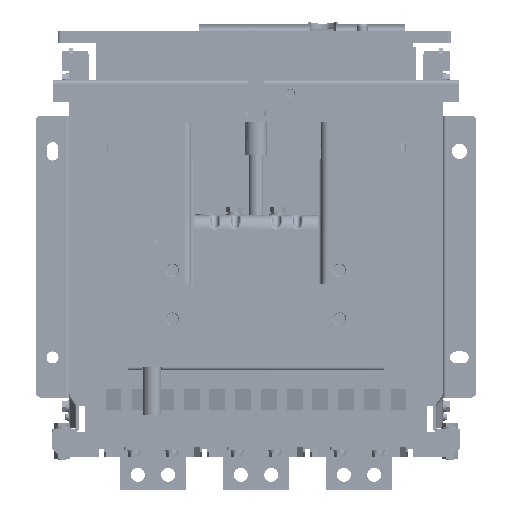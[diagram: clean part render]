
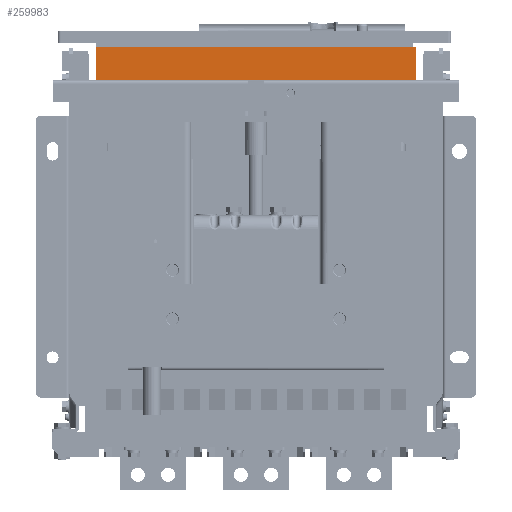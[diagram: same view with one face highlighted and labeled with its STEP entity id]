
A CAD part, front view. The second image highlights one B-rep face of the part: STEP entity #259983.
In plain terms, the highlighted planar face has unit normal (0, -1, 0) as drawn and (1, 0, 0) by its records, which use the part's own axes.
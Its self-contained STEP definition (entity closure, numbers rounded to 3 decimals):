
#30565 = DIRECTION ( 'NONE',  ( 1., 0., 0. ) ) ;
#40032 = DIRECTION ( 'NONE',  ( 0., 0., 1. ) ) ;
#43785 = LINE ( 'NONE', #157681, #97458 ) ;
#47872 = DIRECTION ( 'NONE',  ( 0., 1., 0. ) ) ;
#57873 = VECTOR ( 'NONE', #47872, 1000. ) ;
#70995 = EDGE_CURVE ( 'NONE', #103480, #221803, #43785, .T. ) ;
#91649 = EDGE_LOOP ( 'NONE', ( #244234, #256107, #321685, #157575 ) ) ;
#97458 = VECTOR ( 'NONE', #40032, 1000. ) ;
#103480 = VERTEX_POINT ( 'NONE', #150611 ) ;
#116974 = VERTEX_POINT ( 'NONE', #293547 ) ;
#123531 = VERTEX_POINT ( 'NONE', #251832 ) ;
#133398 = EDGE_CURVE ( 'NONE', #103480, #116974, #221075, .T. ) ;
#150611 = CARTESIAN_POINT ( 'NONE',  ( 401.258, -283.564, -40.5 ) ) ;
#157575 = ORIENTED_EDGE ( 'NONE', *, *, #237006, .F. ) ;
#157681 = CARTESIAN_POINT ( 'NONE',  ( 401.258, -283.564, -40.5 ) ) ;
#176714 = FACE_OUTER_BOUND ( 'NONE', #91649, .T. ) ;
#187139 = VECTOR ( 'NONE', #257007, 1000. ) ;
#191569 = LINE ( 'NONE', #250437, #354109 ) ;
#221075 = LINE ( 'NONE', #224792, #187139 ) ;
#221803 = VERTEX_POINT ( 'NONE', #356103 ) ;
#221944 = DIRECTION ( 'NONE',  ( 0., 0., 1. ) ) ;
#224792 = CARTESIAN_POINT ( 'NONE',  ( 401.258, -283.564, -40.5 ) ) ;
#229927 = CARTESIAN_POINT ( 'NONE',  ( 401.258, -283.564, -40.5 ) ) ;
#234700 = AXIS2_PLACEMENT_3D ( 'NONE', #229927, #30565, #292493 ) ;
#237006 = EDGE_CURVE ( 'NONE', #221803, #123531, #309778, .T. ) ;
#244234 = ORIENTED_EDGE ( 'NONE', *, *, #70995, .F. ) ;
#249848 = EDGE_CURVE ( 'NONE', #116974, #123531, #191569, .T. ) ;
#250437 = CARTESIAN_POINT ( 'NONE',  ( 401.258, 11.436, -40.5 ) ) ;
#251832 = CARTESIAN_POINT ( 'NONE',  ( 401.258, 11.436, -9.5 ) ) ;
#256107 = ORIENTED_EDGE ( 'NONE', *, *, #133398, .T. ) ;
#257007 = DIRECTION ( 'NONE',  ( 0., 1., 0. ) ) ;
#259983 = ADVANCED_FACE ( 'NONE', ( #176714 ), #374177, .T. ) ;
#292493 = DIRECTION ( 'NONE',  ( 0., 1., 0. ) ) ;
#293547 = CARTESIAN_POINT ( 'NONE',  ( 401.258, 11.436, -40.5 ) ) ;
#309778 = LINE ( 'NONE', #340108, #57873 ) ;
#321685 = ORIENTED_EDGE ( 'NONE', *, *, #249848, .T. ) ;
#340108 = CARTESIAN_POINT ( 'NONE',  ( 401.258, -283.564, -9.5 ) ) ;
#354109 = VECTOR ( 'NONE', #221944, 1000. ) ;
#356103 = CARTESIAN_POINT ( 'NONE',  ( 401.258, -283.564, -9.5 ) ) ;
#374177 = PLANE ( 'NONE',  #234700 ) ;
